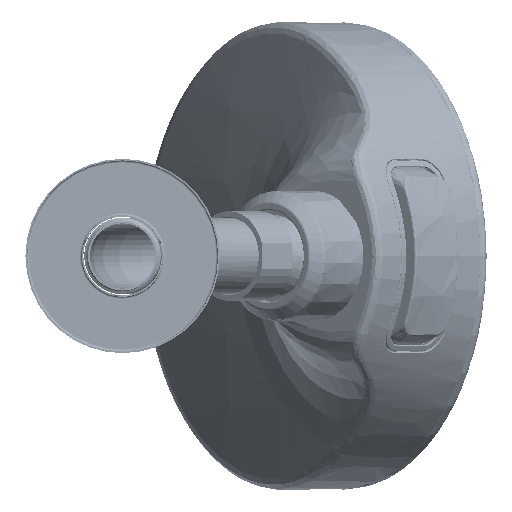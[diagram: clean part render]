
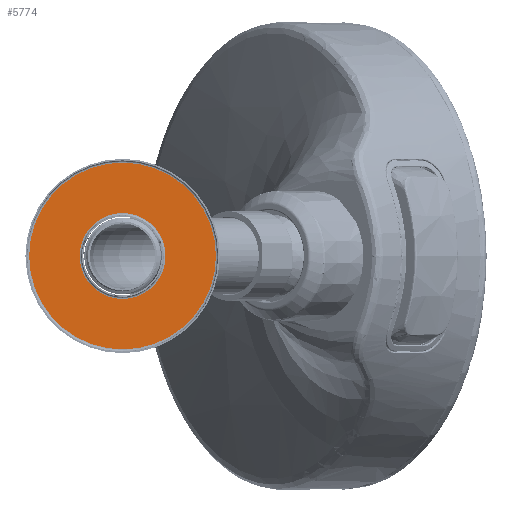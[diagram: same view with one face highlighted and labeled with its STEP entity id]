
A CAD part, left-side view. The second image highlights one B-rep face of the part: STEP entity #5774.
In plain terms, the highlighted planar face has unit normal (-1, 0, 0) as drawn and (0, 1, 0) by its records, which use the part's own axes.
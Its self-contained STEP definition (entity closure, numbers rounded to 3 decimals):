
#5109=CARTESIAN_POINT('',(0.,0.4,0.));
#5110=DIRECTION('',(0.,1.,0.));
#5111=DIRECTION('',(-1.,0.,0.));
#5112=AXIS2_PLACEMENT_3D('',#5109,#5110,#5111);
#5114=CARTESIAN_POINT('',(0.,0.4,0.));
#5115=DIRECTION('',(0.,1.,0.));
#5116=DIRECTION('',(1.,0.,0.));
#5117=AXIS2_PLACEMENT_3D('',#5114,#5115,#5116);
#5119=CARTESIAN_POINT('',(0.,0.4,0.));
#5120=DIRECTION('',(0.,1.,0.));
#5121=DIRECTION('',(-1.,0.,0.));
#5122=AXIS2_PLACEMENT_3D('',#5119,#5120,#5121);
#5124=CARTESIAN_POINT('',(0.,0.4,0.));
#5125=DIRECTION('',(0.,1.,0.));
#5126=DIRECTION('',(1.,0.,0.));
#5127=AXIS2_PLACEMENT_3D('',#5124,#5125,#5126);
#5346=CARTESIAN_POINT('',(-11.5,0.4,0.));
#5347=CARTESIAN_POINT('',(11.5,0.4,0.));
#5348=VERTEX_POINT('',#5346);
#5349=VERTEX_POINT('',#5347);
#5358=CARTESIAN_POINT('',(-25.,0.4,0.));
#5359=CARTESIAN_POINT('',(25.,0.4,0.));
#5360=VERTEX_POINT('',#5358);
#5361=VERTEX_POINT('',#5359);
#5758=CARTESIAN_POINT('',(0.,0.4,0.));
#5759=DIRECTION('',(0.,-1.,0.));
#5760=DIRECTION('',(-1.,0.,0.));
#5761=AXIS2_PLACEMENT_3D('',#5758,#5759,#5760);
#5762=PLANE('',#5761);
#5764=ORIENTED_EDGE('',*,*,#5763,.F.);
#5766=ORIENTED_EDGE('',*,*,#5765,.F.);
#5767=EDGE_LOOP('',(#5764,#5766));
#5768=FACE_OUTER_BOUND('',#5767,.F.);
#5770=ORIENTED_EDGE('',*,*,#5769,.T.);
#5771=ORIENTED_EDGE('',*,*,#5748,.T.);
#5772=EDGE_LOOP('',(#5770,#5771));
#5773=FACE_BOUND('',#5772,.F.);
#5774=ADVANCED_FACE('',(#5768,#5773),#5762,.F.);
#5113=CIRCLE('',#5112,11.5);
#5118=CIRCLE('',#5117,11.5);
#5123=CIRCLE('',#5122,25.);
#5128=CIRCLE('',#5127,25.);
#5748=EDGE_CURVE('',#5349,#5348,#5118,.T.);
#5763=EDGE_CURVE('',#5360,#5361,#5123,.T.);
#5765=EDGE_CURVE('',#5361,#5360,#5128,.T.);
#5769=EDGE_CURVE('',#5348,#5349,#5113,.T.);
